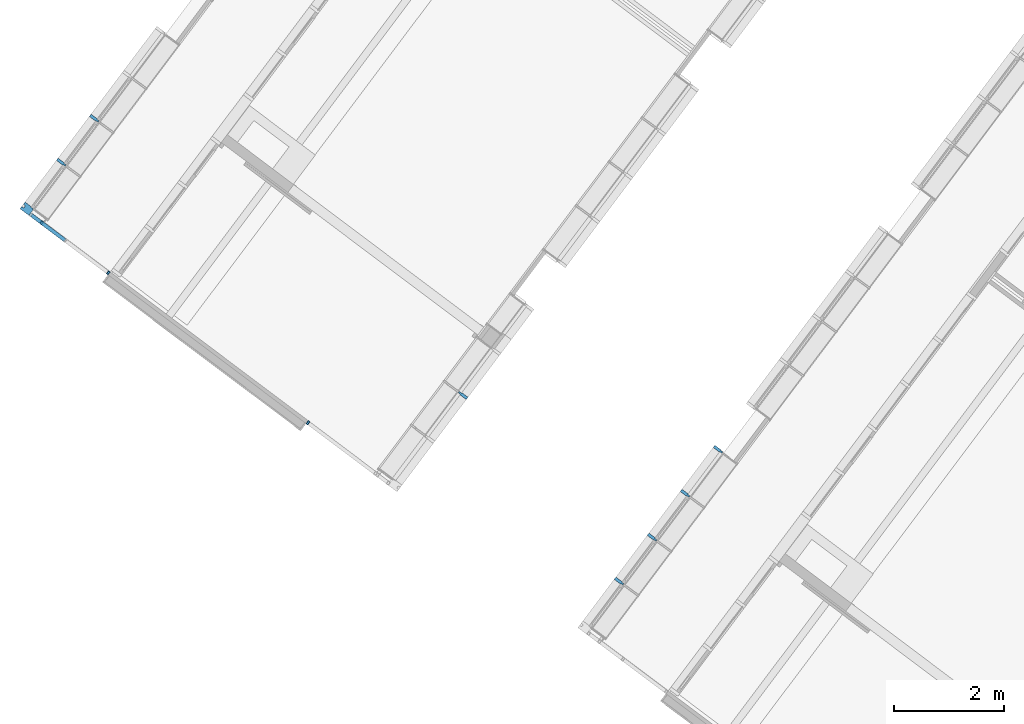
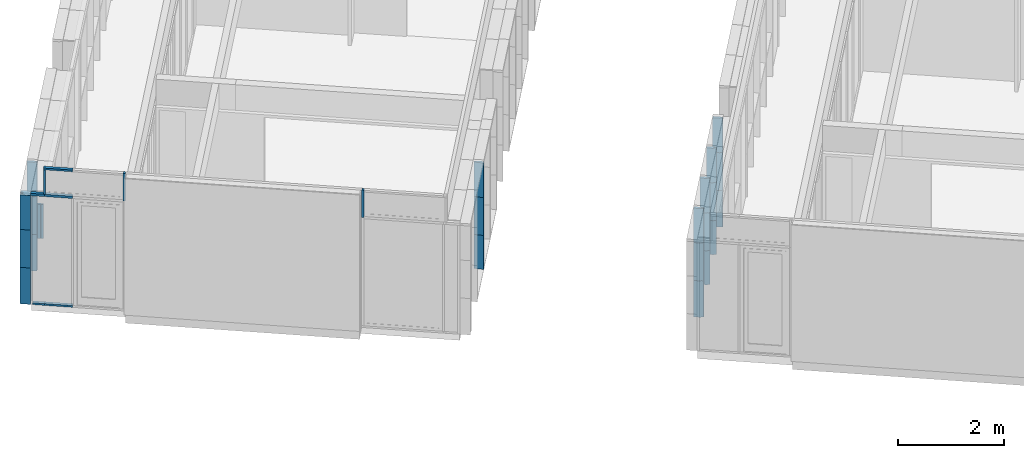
# One storey, part 92 of 243: 30 members, 5 elements without a shape of their own.
"""IFC2X3 building model written with IfcOpenShell, lengths in metres."""

from ifc_helpers import new_model, entity, si_unit, converted_unit, derived_unit, direction, frame, frame_2d, origin, origin_2d_with_axis, place, context, subcontext, project, spatial, polyline, rectangle, outline, extrude, source, transform, mapped, material, type_object, type_shapes, element, aggregate, save


model = new_model("IFC2X3")

# Units and contexts
model_context = context("Model", 3, precision=1e-05, world=origin(), true_north=direction((6.123031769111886e-17, 1.0)))
body_context = subcontext(model_context, "Body", "Model", "MODEL_VIEW")
ifc_project = project(units=[si_unit("LENGTHUNIT", "METRE"), si_unit("AREAUNIT", "SQUARE_METRE"), si_unit("VOLUMEUNIT", "CUBIC_METRE"), converted_unit("PLANEANGLEUNIT", "DEGREE", entity("IfcRatioMeasure", 0.017453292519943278), si_unit("PLANEANGLEUNIT", "RADIAN"), dimensions=[0, 0, 0, 0, 0, 0, 0]), si_unit("MASSUNIT", "GRAM", prefix="KILO"), derived_unit("MASSDENSITYUNIT", [(si_unit("MASSUNIT", "GRAM", prefix="KILO"), 1), (si_unit("LENGTHUNIT", "METRE"), -3)]), derived_unit("IONCONCENTRATIONUNIT", [(si_unit("MASSUNIT", "GRAM", prefix="KILO"), 1), (si_unit("LENGTHUNIT", "METRE"), -3)]), derived_unit("MOMENTOFINERTIAUNIT", [(si_unit("LENGTHUNIT", "METRE"), 4)]), si_unit("TIMEUNIT", "SECOND"), si_unit("FREQUENCYUNIT", "HERTZ"), si_unit("THERMODYNAMICTEMPERATUREUNIT", "DEGREE_CELSIUS"), derived_unit("THERMALTRANSMITTANCEUNIT", [(si_unit("MASSUNIT", "GRAM", prefix="KILO"), 1), (si_unit("THERMODYNAMICTEMPERATUREUNIT", "KELVIN"), -1), (si_unit("TIMEUNIT", "SECOND"), -3)]), derived_unit("THERMALCONDUCTANCEUNIT", [(si_unit("MASSUNIT", "GRAM", prefix="KILO"), 1), (si_unit("THERMODYNAMICTEMPERATUREUNIT", "KELVIN"), -1), (si_unit("TIMEUNIT", "SECOND"), -3), (si_unit("LENGTHUNIT", "METRE"), 1)]), derived_unit("VOLUMETRICFLOWRATEUNIT", [(si_unit("LENGTHUNIT", "METRE"), 3), (si_unit("TIMEUNIT", "SECOND"), -1)]), derived_unit("MASSFLOWRATEUNIT", [(si_unit("MASSUNIT", "GRAM", prefix="KILO"), 1), (si_unit("TIMEUNIT", "SECOND"), -1)]), derived_unit("ROTATIONALFREQUENCYUNIT", [(si_unit("TIMEUNIT", "SECOND"), -1)]), si_unit("ELECTRICCURRENTUNIT", "AMPERE"), si_unit("ELECTRICVOLTAGEUNIT", "VOLT"), si_unit("POWERUNIT", "WATT"), si_unit("FORCEUNIT", "NEWTON", prefix="KILO"), si_unit("ILLUMINANCEUNIT", "LUX"), si_unit("LUMINOUSFLUXUNIT", "LUMEN"), si_unit("LUMINOUSINTENSITYUNIT", "CANDELA"), derived_unit("USERDEFINED", [(si_unit("MASSUNIT", "GRAM", prefix="KILO"), -1), (si_unit("LENGTHUNIT", "METRE"), -2), (si_unit("TIMEUNIT", "SECOND"), 3), (si_unit("LUMINOUSFLUXUNIT", "LUMEN"), 1)]), derived_unit("USERDEFINED", [(si_unit("MASSUNIT", "GRAM", prefix="KILO"), 1), (si_unit("TIMEUNIT", "SECOND"), -3), (si_unit("LENGTHUNIT", "METRE"), 3), (si_unit("ELECTRICCURRENTUNIT", "AMPERE"), -2)]), derived_unit("SOUNDPOWERUNIT", [(si_unit("MASSUNIT", "GRAM", prefix="KILO"), 1), (si_unit("TIMEUNIT", "SECOND"), -3), (si_unit("LENGTHUNIT", "METRE"), 2)]), derived_unit("SOUNDPRESSUREUNIT", [(si_unit("MASSUNIT", "GRAM", prefix="KILO"), 1), (si_unit("LENGTHUNIT", "METRE"), -1), (si_unit("TIMEUNIT", "SECOND"), -2)]), derived_unit("LINEARVELOCITYUNIT", [(si_unit("LENGTHUNIT", "METRE"), 1), (si_unit("TIMEUNIT", "SECOND"), -1)]), si_unit("PRESSUREUNIT", "PASCAL"), derived_unit("USERDEFINED", [(si_unit("MASSUNIT", "GRAM", prefix="KILO"), 1), (si_unit("LENGTHUNIT", "METRE"), -2), (si_unit("TIMEUNIT", "SECOND"), -2)]), derived_unit("LINEARFORCEUNIT", [(si_unit("MASSUNIT", "GRAM", prefix="KILO"), 1), (si_unit("TIMEUNIT", "SECOND"), -2)]), derived_unit("PLANARFORCEUNIT", [(si_unit("MASSUNIT", "GRAM", prefix="KILO"), 1), (si_unit("LENGTHUNIT", "METRE"), -1), (si_unit("TIMEUNIT", "SECOND"), -2)]), derived_unit("SPECIFICHEATCAPACITYUNIT", [(si_unit("THERMODYNAMICTEMPERATUREUNIT", "KELVIN"), -1), (si_unit("LENGTHUNIT", "METRE"), 2), (si_unit("TIMEUNIT", "SECOND"), -2)]), derived_unit("HEATINGVALUEUNIT", [(si_unit("LENGTHUNIT", "METRE"), 2), (si_unit("TIMEUNIT", "SECOND"), -2)]), derived_unit("VAPORPERMEABILITYUNIT", [(si_unit("LENGTHUNIT", "METRE"), -1), (si_unit("TIMEUNIT", "SECOND"), 1)]), derived_unit("DYNAMICVISCOSITYUNIT", [(si_unit("MASSUNIT", "GRAM", prefix="KILO"), 1), (si_unit("TIMEUNIT", "SECOND"), -1), (si_unit("LENGTHUNIT", "METRE"), -1)]), derived_unit("THERMALEXPANSIONCOEFFICIENTUNIT", [(si_unit("THERMODYNAMICTEMPERATUREUNIT", "KELVIN"), -1)]), derived_unit("MODULUSOFELASTICITYUNIT", [(si_unit("MASSUNIT", "GRAM", prefix="KILO"), 1), (si_unit("LENGTHUNIT", "METRE"), -1), (si_unit("TIMEUNIT", "SECOND"), -2)]), derived_unit("ISOTHERMALMOISTURECAPACITYUNIT", [(si_unit("LENGTHUNIT", "METRE"), 3), (si_unit("MASSUNIT", "GRAM", prefix="KILO"), -1)]), derived_unit("MOISTUREDIFFUSIVITYUNIT", [(si_unit("TIMEUNIT", "SECOND"), -1), (si_unit("LENGTHUNIT", "METRE"), 2)])], contexts=[model_context])

# Site, building, storey
site_placement = place(None, frame((0.0, 0.0, 235.0), z_axis=(0.0, 0.0, 1.0), x_axis=(-0.7996477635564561, 0.6004693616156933, 0.0)))
site = spatial("IfcSite", under=ifc_project, at=site_placement, Name="Default", CompositionType="ELEMENT")
building_placement = place(site_placement, origin())
building = spatial("IfcBuilding", under=site, at=building_placement, CompositionType="ELEMENT")
storey_placement = place(building_placement, origin())
storey = spatial("IfcBuildingStorey", under=building, at=storey_placement, Name="P0- Escola", CompositionType="ELEMENT", Elevation=0.0)

# Curtain wall, members
curtain_wall_type_1 = type_object("IfcCurtainWallType", Name="Muro cortina:MC- EXT- MC2", PredefinedType="NOTDEFINED")
curtain_wall_1_placement = place(storey_placement, origin())
curtain_wall_1 = element("IfcCurtainWall", 1, at=curtain_wall_1_placement, inside=storey, type_object=curtain_wall_type_1, Name="Muro cortina:MC- EXT- MC2", ObjectType="Muro cortina:MC- EXT- MC2")
ifc_material = material(Name="_Alumini- T1- Perfil")
member_type_1 = type_object("IfcMemberType", Name="Montante rectangular:MC- Alu- 140x52,5 cm- Fa patis- Centre", PredefinedType="MULLION", material=ifc_material)
shared_shape_1 = source(origin(), body_context, "Body", "SweptSolid", [
    extrude(outline(polyline([(-0.11699999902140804, -0.026250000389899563), (0.021999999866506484, -0.026250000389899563), (0.021999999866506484, -0.01500000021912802), (0.07299999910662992, -0.01500000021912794), (0.07299999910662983, 0.015000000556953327), (0.022000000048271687, 0.015000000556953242), (0.022000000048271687, 0.026250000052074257), (-0.11699999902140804, 0.026250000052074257), (-0.11699999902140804, -0.026250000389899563)])), frame((0.0, 0.022999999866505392, -0.7850000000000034), z_axis=(0.0, 0.0, 1.0), x_axis=(0.0, -1.0, 0.0)), (0.0, 0.0, 1.0), 0.7850000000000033),
])
type_shapes(member_type_1, [shared_shape_1])
member_1_placement = place(curtain_wall_1_placement, frame((66.44514768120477, -22.4151917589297, 0.035000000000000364), z_axis=(0.0, 0.0, -1.0), x_axis=(0.0, -1.0, 0.0)))
member_1 = element("IfcMember", 2, at=member_1_placement, type_object=member_type_1, material=ifc_material, Name="Montante rectangular:MC- Alu- 140x52,5 cm- Fa patis- Centre", ObjectType="Montante rectangular:MC- Alu- 140x52,5 cm- Fa patis- Centre", context=body_context, shape_type="MappedRepresentation", body=[
    mapped(shared_shape_1, transform((0.0, 0.0, 0.0), scale=1.0)),
])
member_type_2 = type_object("IfcMemberType", Name="Montante rectangular:MC- Alu- 140x52,5 cm- Fa patis- Centre", PredefinedType="MULLION", material=ifc_material)
shared_shape_2 = source(origin(), body_context, "Body", "SweptSolid", [
    extrude(outline(polyline([(-0.11699999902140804, -0.026250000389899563), (0.021999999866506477, -0.026250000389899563), (0.021999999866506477, -0.01500000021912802), (0.07299999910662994, -0.01500000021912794), (0.07299999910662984, 0.015000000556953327), (0.02200000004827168, 0.015000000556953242), (0.02200000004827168, 0.026250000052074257), (-0.11699999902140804, 0.026250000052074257), (-0.11699999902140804, -0.026250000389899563)])), frame((0.0, 0.022999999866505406, -0.8750000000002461), z_axis=(0.0, 0.0, 1.0), x_axis=(0.0, -1.0, 0.0)), (0.0, 0.0, 1.0), 0.8750000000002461),
])
type_shapes(member_type_2, [shared_shape_2])
member_2_placement = place(curtain_wall_1_placement, frame((66.44514768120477, -22.4151917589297, 0.8200000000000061), z_axis=(0.0, 0.0, -1.0), x_axis=(0.0, -1.0, 0.0)))
member_2 = element("IfcMember", 3, at=member_2_placement, type_object=member_type_2, material=ifc_material, Name="Montante rectangular:MC- Alu- 140x52,5 cm- Fa patis- Centre", ObjectType="Montante rectangular:MC- Alu- 140x52,5 cm- Fa patis- Centre", context=body_context, shape_type="MappedRepresentation", body=[
    mapped(shared_shape_2, transform((0.0, 0.0, 0.0), scale=1.0)),
])
member_type_3 = type_object("IfcMemberType", Name="Montante rectangular:MC- Alu- 140x52,5 cm- Fa patis- Centre", PredefinedType="MULLION", material=ifc_material)
shared_shape_3 = source(origin(), body_context, "Body", "SweptSolid", [
    extrude(outline(polyline([(-0.11699999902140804, -0.026250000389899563), (0.021999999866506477, -0.026250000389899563), (0.021999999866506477, -0.01500000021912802), (0.07299999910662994, -0.01500000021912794), (0.07299999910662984, 0.015000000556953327), (0.02200000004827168, 0.015000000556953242), (0.02200000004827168, 0.026250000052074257), (-0.11699999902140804, 0.026250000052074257), (-0.11699999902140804, -0.026250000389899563)])), frame((0.0, 0.022999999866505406, -0.79749999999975), z_axis=(0.0, 0.0, 1.0), x_axis=(0.0, -1.0, 0.0)), (0.0, 0.0, 1.0), 0.79749999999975),
])
type_shapes(member_type_3, [shared_shape_3])
member_3_placement = place(curtain_wall_1_placement, frame((66.44514768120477, -22.4151917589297, 1.6950000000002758), z_axis=(0.0, 0.0, -1.0), x_axis=(0.0, -1.0, 0.0)))
member_3 = element("IfcMember", 4, at=member_3_placement, type_object=member_type_3, material=ifc_material, Name="Montante rectangular:MC- Alu- 140x52,5 cm- Fa patis- Centre", ObjectType="Montante rectangular:MC- Alu- 140x52,5 cm- Fa patis- Centre", context=body_context, shape_type="MappedRepresentation", body=[
    mapped(shared_shape_3, transform((0.0, 0.0, 0.0), scale=1.0)),
])
aggregate(curtain_wall_1, [member_1, member_2, member_3])

curtain_wall_type_2 = type_object("IfcCurtainWallType", Name="Muro cortina:MC- EXT- AL1- Fa porxo", PredefinedType="NOTDEFINED")
curtain_wall_2_placement = place(storey_placement, origin())
curtain_wall_2 = element("IfcCurtainWall", 5, at=curtain_wall_2_placement, inside=storey, type_object=curtain_wall_type_2, Name="Muro cortina:MC- EXT- AL1- Fa porxo", ObjectType="Muro cortina:MC- EXT- AL1- Fa porxo")
member_type_4 = type_object("IfcMemberType", Name="Montante rectangular:MC- Alu- 65x41 cm- Fa Porxo- Centre", PredefinedType="MULLION", material=ifc_material)
shared_shape_4 = source(origin(), body_context, "Body", "SweptSolid", [
    extrude(rectangle(XDim=0.06500000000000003, YDim=0.041000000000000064, at=frame_2d((3.469446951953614e-18, -5.204170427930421e-18), x_axis=(1.0, 0.0))), frame((-0.020499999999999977, -0.032499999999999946, -0.2256666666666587), z_axis=(0.0, 0.0, 1.0), x_axis=(0.0, -1.0, 0.0)), (0.0, 0.0, 1.0), 0.22566666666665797),
])
type_shapes(member_type_4, [shared_shape_4])
member_4_placement = place(curtain_wall_2_placement, frame((74.64414768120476, -20.28894175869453, -0.020000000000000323), z_axis=(1.0, 0.0, 0.0), x_axis=(0.0, 0.0, -1.0)))
member_4 = element("IfcMember", 6, at=member_4_placement, type_object=member_type_4, material=ifc_material, Name="Montante rectangular:MC- Alu- 65x41 cm- Fa Porxo- Centre", ObjectType="Montante rectangular:MC- Alu- 65x41 cm- Fa Porxo- Centre", context=body_context, shape_type="MappedRepresentation", body=[
    mapped(shared_shape_4, transform((0.0, 0.0, 0.0), scale=1.0)),
])
member_type_5 = type_object("IfcMemberType", Name="Montante rectangular:MC- Alu- 65x41 cm- Fa Porxo- Centre", PredefinedType="MULLION", material=ifc_material)
shared_shape_5 = source(origin(), body_context, "Body", "SweptSolid", [
    extrude(rectangle(XDim=0.06500000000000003, YDim=0.041000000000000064, at=frame_2d((0.0, -8.673617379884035e-18), x_axis=(1.0, 0.0))), frame((-0.020500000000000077, -0.032499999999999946, -0.6312500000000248), z_axis=(0.0, 0.0, 1.0), x_axis=(0.0, -1.0, 0.0)), (0.0, 0.0, 1.0), 0.6312500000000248),
])
type_shapes(member_type_5, [shared_shape_5])
member_5_placement = place(curtain_wall_2_placement, frame((72.88014768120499, -20.288941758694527, 2.51875), z_axis=(0.0, 0.0, -1.0), x_axis=(-1.0, 0.0, 0.0)))
member_5 = element("IfcMember", 7, at=member_5_placement, type_object=member_type_5, material=ifc_material, Name="Montante rectangular:MC- Alu- 65x41 cm- Fa Porxo- Centre", ObjectType="Montante rectangular:MC- Alu- 65x41 cm- Fa Porxo- Centre", context=body_context, shape_type="MappedRepresentation", body=[
    mapped(shared_shape_5, transform((0.0, 0.0, 0.0), scale=1.0)),
])
member_type_6 = type_object("IfcMemberType", Name="Montante rectangular:MC- Alu- 65x52,5 cm- Fa Porxo- Centre", PredefinedType="MULLION", material=ifc_material)
shared_shape_6 = source(origin(), body_context, "Body", "SweptSolid", [
    extrude(rectangle(XDim=0.06500000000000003, YDim=0.05300000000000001, at=frame_2d((3.469446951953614e-18, 3.469446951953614e-18), x_axis=(1.0, 0.0))), frame((0.0, -0.03249999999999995, -0.266666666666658), z_axis=(0.0, 0.0, 1.0), x_axis=(0.0, -1.0, 0.0)), (0.0, 0.0, 1.0), 0.266666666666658),
])
type_shapes(member_type_6, [shared_shape_6])
member_6_placement = place(curtain_wall_2_placement, frame((74.4184810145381, -20.28894175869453, 2.51875), z_axis=(-1.0, 0.0, 0.0), x_axis=(0.0, 0.0, 1.0)))
member_6 = element("IfcMember", 8, at=member_6_placement, type_object=member_type_6, material=ifc_material, Name="Montante rectangular:MC- Alu- 65x52,5 cm- Fa Porxo- Centre", ObjectType="Montante rectangular:MC- Alu- 65x52,5 cm- Fa Porxo- Centre", context=body_context, shape_type="MappedRepresentation", body=[
    mapped(shared_shape_6, transform((0.0, 0.0, 0.0), scale=1.0)),
])
member_type_7 = type_object("IfcMemberType", Name="Montante rectangular:MC- Alu- 65x41 cm- Fa Porxo- Centre", PredefinedType="MULLION", material=ifc_material)
shared_shape_7 = source(origin(), body_context, "Body", "SweptSolid", [
    extrude(rectangle(XDim=0.06500000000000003, YDim=0.041000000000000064, at=frame_2d((0.0, -8.673617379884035e-18), x_axis=(1.0, 0.0))), frame((-0.020500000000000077, -0.032499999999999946, -0.5538333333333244), z_axis=(0.0, 0.0, 1.0), x_axis=(0.0, -1.0, 0.0)), (0.0, 0.0, 1.0), 0.5538333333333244),
])
type_shapes(member_type_7, [shared_shape_7])
member_7_placement = place(curtain_wall_2_placement, frame((73.88514768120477, -20.28894175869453, 3.150000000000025), z_axis=(-1.0, 0.0, 0.0), x_axis=(0.0, 0.0, 1.0)))
member_7 = element("IfcMember", 9, at=member_7_placement, type_object=member_type_7, material=ifc_material, Name="Montante rectangular:MC- Alu- 65x41 cm- Fa Porxo- Centre", ObjectType="Montante rectangular:MC- Alu- 65x41 cm- Fa Porxo- Centre", context=body_context, shape_type="MappedRepresentation", body=[
    mapped(shared_shape_7, transform((0.0, 0.0, 0.0), scale=1.0)),
])
member_type_8 = type_object("IfcMemberType", Name="Montante rectangular:MC- Alu- 65x41 cm- Fa Porxo- Centre", PredefinedType="MULLION", material=ifc_material)
shared_shape_8 = source(origin(), body_context, "Body", "SweptSolid", [
    extrude(rectangle(XDim=0.06500000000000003, YDim=0.041000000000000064, at=frame_2d((3.469446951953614e-18, -5.204170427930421e-18), x_axis=(1.0, 0.0))), frame((-0.020499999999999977, -0.032499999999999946, -0.5333333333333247), z_axis=(0.0, 0.0, 1.0), x_axis=(0.0, -1.0, 0.0)), (0.0, 0.0, 1.0), 0.5333333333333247),
])
type_shapes(member_type_8, [shared_shape_8])
member_8_placement = place(curtain_wall_2_placement, frame((74.4184810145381, -20.28894175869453, -0.02000000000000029), z_axis=(1.0, 0.0, 0.0), x_axis=(0.0, 0.0, -1.0)))
member_8 = element("IfcMember", 10, at=member_8_placement, type_object=member_type_8, material=ifc_material, Name="Montante rectangular:MC- Alu- 65x41 cm- Fa Porxo- Centre", ObjectType="Montante rectangular:MC- Alu- 65x41 cm- Fa Porxo- Centre", context=body_context, shape_type="MappedRepresentation", body=[
    mapped(shared_shape_8, transform((0.0, 0.0, 0.0), scale=1.0)),
])
member_type_9 = type_object("IfcMemberType", Name="Montante rectangular:MC- Alu- 65x52,5 cm- Fa Porxo- Centre", PredefinedType="MULLION", material=ifc_material)
shared_shape_9 = source(origin(), body_context, "Body", "SweptSolid", [
    extrude(rectangle(XDim=0.06500000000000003, YDim=0.05300000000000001, at=frame_2d((3.469446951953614e-18, 3.469446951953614e-18), x_axis=(1.0, 0.0))), frame((0.0, -0.03249999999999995, -0.5333333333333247), z_axis=(0.0, 0.0, 1.0), x_axis=(0.0, -1.0, 0.0)), (0.0, 0.0, 1.0), 0.5333333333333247),
])
type_shapes(member_type_9, [shared_shape_9])
member_9_placement = place(curtain_wall_2_placement, frame((73.88514768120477, -20.28894175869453, 2.51875), z_axis=(-1.0, 0.0, 0.0), x_axis=(0.0, 0.0, 1.0)))
member_9 = element("IfcMember", 11, at=member_9_placement, type_object=member_type_9, material=ifc_material, Name="Montante rectangular:MC- Alu- 65x52,5 cm- Fa Porxo- Centre", ObjectType="Montante rectangular:MC- Alu- 65x52,5 cm- Fa Porxo- Centre", context=body_context, shape_type="MappedRepresentation", body=[
    mapped(shared_shape_9, transform((0.0, 0.0, 0.0), scale=1.0)),
])
member_type_10 = type_object("IfcMemberType", Name="Montante rectangular:MC- Alu- 65x41 cm- Fa Porxo- Centre", PredefinedType="MULLION", material=ifc_material)
shared_shape_10 = source(origin(), body_context, "Body", "SweptSolid", [
    extrude(rectangle(XDim=0.06500000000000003, YDim=0.04100000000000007, at=frame_2d((0.0, -8.673617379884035e-18), x_axis=(1.0, 0.0))), frame((0.0, -0.032499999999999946, -0.5637500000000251), z_axis=(0.0, 0.0, 1.0), x_axis=(0.0, -1.0, 0.0)), (0.0, 0.0, 1.0), 0.5637500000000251),
])
type_shapes(member_type_10, [shared_shape_10])
member_10_placement = place(curtain_wall_2_placement, frame((74.4184810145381, -20.28894175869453, 2.54525), z_axis=(0.0, 0.0, -1.0), x_axis=(-1.0, 0.0, 0.0)))
member_10 = element("IfcMember", 12, at=member_10_placement, type_object=member_type_10, material=ifc_material, Name="Montante rectangular:MC- Alu- 65x41 cm- Fa Porxo- Centre", ObjectType="Montante rectangular:MC- Alu- 65x41 cm- Fa Porxo- Centre", context=body_context, shape_type="MappedRepresentation", body=[
    mapped(shared_shape_10, transform((0.0, 0.0, 0.0), scale=1.0)),
])
aggregate(curtain_wall_2, [member_4, member_5, member_6, member_7, member_8, member_9, member_10])

# Curtain wall, member
curtain_wall_type_3 = type_object("IfcCurtainWallType", Name="Muro cortina:MC- EXT- MC5", PredefinedType="NOTDEFINED")
curtain_wall_3_placement = place(storey_placement, origin())
curtain_wall_3 = element("IfcCurtainWall", 13, at=curtain_wall_3_placement, inside=storey, type_object=curtain_wall_type_3, Name="Muro cortina:MC- EXT- MC5", ObjectType="Muro cortina:MC- EXT- MC5")
member_type_11 = type_object("IfcMemberType", Name="Montante rectangular:MC- Alu- 140x52,5 cm- Fa patis- Centre", PredefinedType="MULLION", material=ifc_material)
shared_shape_11 = source(origin(), body_context, "Body", "SweptSolid", [
    extrude(outline(polyline([(-0.021999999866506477, -0.026250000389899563), (0.11699999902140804, -0.026250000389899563), (0.11699999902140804, 0.026250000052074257), (-0.02200000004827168, 0.026250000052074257), (-0.02200000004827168, 0.015000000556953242), (-0.07299999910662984, 0.015000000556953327), (-0.07299999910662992, -0.01500000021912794), (-0.021999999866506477, -0.01500000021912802), (-0.021999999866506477, -0.026250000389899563)])), frame((0.0, -0.022999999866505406, -0.8400000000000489), z_axis=(0.0, 0.0, 1.0), x_axis=(0.0, -1.0, 0.0)), (0.0, 0.0, 1.0), 0.8400000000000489),
])
type_shapes(member_type_11, [shared_shape_11])
member_11_placement = place(curtain_wall_3_placement, frame((74.7451476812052, -21.41519175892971, -0.02), z_axis=(0.0, 0.0, -1.0), x_axis=(0.0, -1.0, 0.0)))
member_11 = element("IfcMember", 14, at=member_11_placement, type_object=member_type_11, material=ifc_material, Name="Montante rectangular:MC- Alu- 140x52,5 cm- Fa patis- Centre", ObjectType="Montante rectangular:MC- Alu- 140x52,5 cm- Fa patis- Centre", context=body_context, shape_type="MappedRepresentation", body=[
    mapped(shared_shape_11, transform((0.0, 0.0, 0.0), scale=1.0)),
])

# Curtain wall, members
curtain_wall_4_placement = place(storey_placement, origin())
curtain_wall_4 = element("IfcCurtainWall", 15, at=curtain_wall_4_placement, inside=storey, type_object=curtain_wall_type_3, Name="Muro cortina:MC- EXT- MC5", ObjectType="Muro cortina:MC- EXT- MC5")
member_12_placement = place(curtain_wall_4_placement, frame((62.045147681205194, -21.415191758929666, -0.02), z_axis=(0.0, 0.0, -1.0), x_axis=(0.0, -1.0, 0.0)))
member_12 = element("IfcMember", 16, at=member_12_placement, type_object=member_type_11, material=ifc_material, Name="Montante rectangular:MC- Alu- 140x52,5 cm- Fa patis- Centre", ObjectType="Montante rectangular:MC- Alu- 140x52,5 cm- Fa patis- Centre", context=body_context, shape_type="MappedRepresentation", body=[
    mapped(shared_shape_11, transform((0.0, 0.0, 0.0), scale=1.0)),
])
member_13_placement = place(curtain_wall_4_placement, frame((62.04514768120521, -24.41519175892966, -0.02), z_axis=(0.0, 0.0, -1.0), x_axis=(0.0, -1.0, 0.0)))
member_13 = element("IfcMember", 17, at=member_13_placement, type_object=member_type_11, material=ifc_material, Name="Montante rectangular:MC- Alu- 140x52,5 cm- Fa patis- Centre", ObjectType="Montante rectangular:MC- Alu- 140x52,5 cm- Fa patis- Centre", context=body_context, shape_type="MappedRepresentation", body=[
    mapped(shared_shape_11, transform((0.0, 0.0, 0.0), scale=1.0)),
])

# Member
member_type_12 = type_object("IfcMemberType", Name="Montante rectangular:MC- Alu- 140x52,5 cm- Fa patis- Centre", PredefinedType="MULLION", material=ifc_material)
shared_shape_12 = source(origin(), body_context, "Body", "SweptSolid", [
    extrude(outline(polyline([(-0.021999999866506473, -0.026250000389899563), (0.11699999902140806, -0.026250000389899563), (0.11699999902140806, 0.026250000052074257), (-0.022000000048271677, 0.026250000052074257), (-0.022000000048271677, 0.015000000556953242), (-0.07299999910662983, 0.015000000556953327), (-0.07299999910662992, -0.01500000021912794), (-0.021999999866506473, -0.01500000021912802), (-0.021999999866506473, -0.026250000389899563)])), frame((0.0, -0.022999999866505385, -0.7850000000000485), z_axis=(0.0, 0.0, 1.0), x_axis=(0.0, -1.0, 0.0)), (0.0, 0.0, 1.0), 0.7850000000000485),
])
type_shapes(member_type_12, [shared_shape_12])
member_14_placement = place(curtain_wall_3_placement, frame((74.7451476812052, -22.415191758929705, 0.035000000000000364), z_axis=(0.0, 0.0, -1.0), x_axis=(0.0, -1.0, 0.0)))
member_14 = element("IfcMember", 18, at=member_14_placement, type_object=member_type_12, material=ifc_material, Name="Montante rectangular:MC- Alu- 140x52,5 cm- Fa patis- Centre", ObjectType="Montante rectangular:MC- Alu- 140x52,5 cm- Fa patis- Centre", context=body_context, shape_type="MappedRepresentation", body=[
    mapped(shared_shape_12, transform((0.0, 0.0, 0.0), scale=1.0)),
])

member_15_placement = place(curtain_wall_4_placement, frame((62.045147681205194, -22.415191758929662, 0.035000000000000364), z_axis=(0.0, 0.0, -1.0), x_axis=(0.0, -1.0, 0.0)))
member_15 = element("IfcMember", 19, at=member_15_placement, type_object=member_type_12, material=ifc_material, Name="Montante rectangular:MC- Alu- 140x52,5 cm- Fa patis- Centre", ObjectType="Montante rectangular:MC- Alu- 140x52,5 cm- Fa patis- Centre", context=body_context, shape_type="MappedRepresentation", body=[
    mapped(shared_shape_12, transform((0.0, 0.0, 0.0), scale=1.0)),
])

member_16_placement = place(curtain_wall_4_placement, frame((62.04514768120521, -23.41519175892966, 0.035000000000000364), z_axis=(0.0, 0.0, -1.0), x_axis=(0.0, -1.0, 0.0)))
member_16 = element("IfcMember", 20, at=member_16_placement, type_object=member_type_12, material=ifc_material, Name="Montante rectangular:MC- Alu- 140x52,5 cm- Fa patis- Centre", ObjectType="Montante rectangular:MC- Alu- 140x52,5 cm- Fa patis- Centre", context=body_context, shape_type="MappedRepresentation", body=[
    mapped(shared_shape_12, transform((0.0, 0.0, 0.0), scale=1.0)),
])

member_type_13 = type_object("IfcMemberType", Name="Montante rectangular:MC- Alu- 140x52,5 cm- Fa patis- Centre", PredefinedType="MULLION", material=ifc_material)
shared_shape_13 = source(origin(), body_context, "Body", "SweptSolid", [
    extrude(outline(polyline([(-0.021999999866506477, -0.026250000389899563), (0.11699999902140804, -0.026250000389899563), (0.11699999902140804, 0.026250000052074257), (-0.02200000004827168, 0.026250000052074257), (-0.02200000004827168, 0.015000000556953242), (-0.07299999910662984, 0.015000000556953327), (-0.07299999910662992, -0.01500000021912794), (-0.021999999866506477, -0.01500000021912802), (-0.021999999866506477, -0.026250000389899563)])), frame((0.0, -0.022999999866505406, -0.8750000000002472), z_axis=(0.0, 0.0, 1.0), x_axis=(0.0, -1.0, 0.0)), (0.0, 0.0, 1.0), 0.8750000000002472),
])
type_shapes(member_type_13, [shared_shape_13])
member_17_placement = place(curtain_wall_3_placement, frame((74.7451476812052, -21.41519175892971, 0.8200000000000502), z_axis=(0.0, 0.0, -1.0), x_axis=(0.0, -1.0, 0.0)))
member_17 = element("IfcMember", 21, at=member_17_placement, type_object=member_type_13, material=ifc_material, Name="Montante rectangular:MC- Alu- 140x52,5 cm- Fa patis- Centre", ObjectType="Montante rectangular:MC- Alu- 140x52,5 cm- Fa patis- Centre", context=body_context, shape_type="MappedRepresentation", body=[
    mapped(shared_shape_13, transform((0.0, 0.0, 0.0), scale=1.0)),
])

member_18_placement = place(curtain_wall_4_placement, frame((62.045147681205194, -21.415191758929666, 0.8200000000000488), z_axis=(0.0, 0.0, -1.0), x_axis=(0.0, -1.0, 0.0)))
member_18 = element("IfcMember", 22, at=member_18_placement, type_object=member_type_13, material=ifc_material, Name="Montante rectangular:MC- Alu- 140x52,5 cm- Fa patis- Centre", ObjectType="Montante rectangular:MC- Alu- 140x52,5 cm- Fa patis- Centre", context=body_context, shape_type="MappedRepresentation", body=[
    mapped(shared_shape_13, transform((0.0, 0.0, 0.0), scale=1.0)),
])

member_19_placement = place(curtain_wall_4_placement, frame((62.045147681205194, -22.415191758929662, 0.8200000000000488), z_axis=(0.0, 0.0, -1.0), x_axis=(0.0, -1.0, 0.0)))
member_19 = element("IfcMember", 23, at=member_19_placement, type_object=member_type_13, material=ifc_material, Name="Montante rectangular:MC- Alu- 140x52,5 cm- Fa patis- Centre", ObjectType="Montante rectangular:MC- Alu- 140x52,5 cm- Fa patis- Centre", context=body_context, shape_type="MappedRepresentation", body=[
    mapped(shared_shape_13, transform((0.0, 0.0, 0.0), scale=1.0)),
])

member_20_placement = place(curtain_wall_4_placement, frame((62.04514768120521, -23.41519175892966, 0.8200000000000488), z_axis=(0.0, 0.0, -1.0), x_axis=(0.0, -1.0, 0.0)))
member_20 = element("IfcMember", 24, at=member_20_placement, type_object=member_type_13, material=ifc_material, Name="Montante rectangular:MC- Alu- 140x52,5 cm- Fa patis- Centre", ObjectType="Montante rectangular:MC- Alu- 140x52,5 cm- Fa patis- Centre", context=body_context, shape_type="MappedRepresentation", body=[
    mapped(shared_shape_13, transform((0.0, 0.0, 0.0), scale=1.0)),
])

member_21_placement = place(curtain_wall_4_placement, frame((62.04514768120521, -24.41519175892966, 0.8200000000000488), z_axis=(0.0, 0.0, -1.0), x_axis=(0.0, -1.0, 0.0)))
member_21 = element("IfcMember", 25, at=member_21_placement, type_object=member_type_13, material=ifc_material, Name="Montante rectangular:MC- Alu- 140x52,5 cm- Fa patis- Centre", ObjectType="Montante rectangular:MC- Alu- 140x52,5 cm- Fa patis- Centre", context=body_context, shape_type="MappedRepresentation", body=[
    mapped(shared_shape_13, transform((0.0, 0.0, 0.0), scale=1.0)),
])

member_type_14 = type_object("IfcMemberType", Name="Montante rectangular:MC- Alu- 140x52,5 cm- Fa patis- Cantonada", PredefinedType="MULLION", material=ifc_material)
shared_shape_14 = source(origin(), body_context, "Body", "SweptSolid", [
    extrude(outline(polyline([(-0.04333333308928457, -0.05708333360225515), (0.09566666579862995, -0.05708333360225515), (0.09566666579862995, -0.004583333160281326), (0.05066666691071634, -0.004583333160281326), (0.050666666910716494, 0.042916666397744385), (0.09566666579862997, 0.042916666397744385), (0.09566666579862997, 0.09541666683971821), (-0.1043333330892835, 0.09541666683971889), (-0.1043333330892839, -0.03083333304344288), (-0.09433333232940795, -0.030833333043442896), (-0.094333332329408, -0.04583333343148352), (-0.04333333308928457, -0.0458333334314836), (-0.04333333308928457, -0.05708333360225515)])), frame((-0.09541666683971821, -0.0443333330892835, -0.8400000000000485), z_axis=(0.0, 0.0, 1.0), x_axis=(0.0, -1.0, 0.0)), (0.0, 0.0, 1.0), 0.8400000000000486),
])
type_shapes(member_type_14, [shared_shape_14])
member_22_placement = place(curtain_wall_3_placement, frame((74.7451476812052, -20.288941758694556, 0.8200000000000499), z_axis=(0.0, 0.0, 1.0), x_axis=(0.0, 1.0, 0.0)))
member_22 = element("IfcMember", 26, at=member_22_placement, type_object=member_type_14, material=ifc_material, Name="Montante rectangular:MC- Alu- 140x52,5 cm- Fa patis- Cantonada", ObjectType="Montante rectangular:MC- Alu- 140x52,5 cm- Fa patis- Cantonada", context=body_context, shape_type="MappedRepresentation", body=[
    mapped(shared_shape_14, transform((0.0, 0.0, 0.0), scale=1.0)),
])

member_type_15 = type_object("IfcMemberType", Name="Montante rectangular:MC- Alu- 140x52,5 cm- Fa patis- Cantonada", PredefinedType="MULLION", material=ifc_material)
shared_shape_15 = source(origin(), body_context, "Body", "SweptSolid", [
    extrude(outline(polyline([(-0.04333333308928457, -0.05708333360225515), (0.09566666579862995, -0.05708333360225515), (0.09566666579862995, -0.004583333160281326), (0.05066666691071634, -0.004583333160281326), (0.050666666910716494, 0.042916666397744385), (0.09566666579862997, 0.042916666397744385), (0.09566666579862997, 0.09541666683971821), (-0.1043333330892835, 0.09541666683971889), (-0.1043333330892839, -0.03083333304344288), (-0.09433333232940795, -0.030833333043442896), (-0.094333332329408, -0.04583333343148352), (-0.04333333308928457, -0.0458333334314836), (-0.04333333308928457, -0.05708333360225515)])), frame((-0.09541666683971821, -0.0443333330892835, -0.7974999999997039), z_axis=(0.0, 0.0, 1.0), x_axis=(0.0, -1.0, 0.0)), (0.0, 0.0, 1.0), 0.7974999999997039),
])
type_shapes(member_type_15, [shared_shape_15])
member_23_placement = place(curtain_wall_3_placement, frame((74.7451476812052, -20.288941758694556, 2.4924999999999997), z_axis=(0.0, 0.0, 1.0), x_axis=(0.0, 1.0, 0.0)))
member_23 = element("IfcMember", 27, at=member_23_placement, type_object=member_type_15, material=ifc_material, Name="Montante rectangular:MC- Alu- 140x52,5 cm- Fa patis- Cantonada", ObjectType="Montante rectangular:MC- Alu- 140x52,5 cm- Fa patis- Cantonada", context=body_context, shape_type="MappedRepresentation", body=[
    mapped(shared_shape_15, transform((0.0, 0.0, 0.0), scale=1.0)),
])

member_type_16 = type_object("IfcMemberType", Name="Montante rectangular:MC- Alu- 140x52,5 cm- Fa patis- Centre", PredefinedType="MULLION", material=ifc_material)
shared_shape_16 = source(origin(), body_context, "Body", "SweptSolid", [
    extrude(outline(polyline([(-0.021999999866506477, -0.026250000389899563), (0.11699999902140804, -0.026250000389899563), (0.11699999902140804, 0.026250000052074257), (-0.02200000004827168, 0.026250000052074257), (-0.02200000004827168, 0.015000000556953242), (-0.07299999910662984, 0.015000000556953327), (-0.07299999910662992, -0.01500000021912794), (-0.021999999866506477, -0.01500000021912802), (-0.021999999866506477, -0.026250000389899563)])), frame((0.0, -0.022999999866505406, -0.7974999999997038), z_axis=(0.0, 0.0, 1.0), x_axis=(0.0, -1.0, 0.0)), (0.0, 0.0, 1.0), 0.7974999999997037),
])
type_shapes(member_type_16, [shared_shape_16])
member_24_placement = place(curtain_wall_3_placement, frame((74.7451476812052, -21.41519175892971, 1.6950000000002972), z_axis=(0.0, 0.0, -1.0), x_axis=(0.0, -1.0, 0.0)))
member_24 = element("IfcMember", 28, at=member_24_placement, type_object=member_type_16, material=ifc_material, Name="Montante rectangular:MC- Alu- 140x52,5 cm- Fa patis- Centre", ObjectType="Montante rectangular:MC- Alu- 140x52,5 cm- Fa patis- Centre", context=body_context, shape_type="MappedRepresentation", body=[
    mapped(shared_shape_16, transform((0.0, 0.0, 0.0), scale=1.0)),
])

member_25_placement = place(curtain_wall_4_placement, frame((62.045147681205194, -21.415191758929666, 1.695000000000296), z_axis=(0.0, 0.0, -1.0), x_axis=(0.0, -1.0, 0.0)))
member_25 = element("IfcMember", 29, at=member_25_placement, type_object=member_type_16, material=ifc_material, Name="Montante rectangular:MC- Alu- 140x52,5 cm- Fa patis- Centre", ObjectType="Montante rectangular:MC- Alu- 140x52,5 cm- Fa patis- Centre", context=body_context, shape_type="MappedRepresentation", body=[
    mapped(shared_shape_16, transform((0.0, 0.0, 0.0), scale=1.0)),
])

member_26_placement = place(curtain_wall_4_placement, frame((62.045147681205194, -22.415191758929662, 1.695000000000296), z_axis=(0.0, 0.0, -1.0), x_axis=(0.0, -1.0, 0.0)))
member_26 = element("IfcMember", 30, at=member_26_placement, type_object=member_type_16, material=ifc_material, Name="Montante rectangular:MC- Alu- 140x52,5 cm- Fa patis- Centre", ObjectType="Montante rectangular:MC- Alu- 140x52,5 cm- Fa patis- Centre", context=body_context, shape_type="MappedRepresentation", body=[
    mapped(shared_shape_16, transform((0.0, 0.0, 0.0), scale=1.0)),
])

member_27_placement = place(curtain_wall_4_placement, frame((62.04514768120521, -23.41519175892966, 1.695000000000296), z_axis=(0.0, 0.0, -1.0), x_axis=(0.0, -1.0, 0.0)))
member_27 = element("IfcMember", 31, at=member_27_placement, type_object=member_type_16, material=ifc_material, Name="Montante rectangular:MC- Alu- 140x52,5 cm- Fa patis- Centre", ObjectType="Montante rectangular:MC- Alu- 140x52,5 cm- Fa patis- Centre", context=body_context, shape_type="MappedRepresentation", body=[
    mapped(shared_shape_16, transform((0.0, 0.0, 0.0), scale=1.0)),
])

member_28_placement = place(curtain_wall_4_placement, frame((62.04514768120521, -24.41519175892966, 1.695000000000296), z_axis=(0.0, 0.0, -1.0), x_axis=(0.0, -1.0, 0.0)))
member_28 = element("IfcMember", 32, at=member_28_placement, type_object=member_type_16, material=ifc_material, Name="Montante rectangular:MC- Alu- 140x52,5 cm- Fa patis- Centre", ObjectType="Montante rectangular:MC- Alu- 140x52,5 cm- Fa patis- Centre", context=body_context, shape_type="MappedRepresentation", body=[
    mapped(shared_shape_16, transform((0.0, 0.0, 0.0), scale=1.0)),
])

aggregate(curtain_wall_4, [member_12, member_15, member_16, member_13, member_18, member_19, member_20, member_21, member_25, member_26, member_27, member_28])

member_type_17 = type_object("IfcMemberType", Name="Montante rectangular:MC- Alu- 140x52,5 cm- Fa patis- Cantonada", PredefinedType="MULLION", material=ifc_material)
shared_shape_17 = source(origin(), body_context, "Body", "SweptSolid", [
    extrude(outline(polyline([(-0.04333333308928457, -0.05708333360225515), (0.09566666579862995, -0.05708333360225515), (0.09566666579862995, -0.004583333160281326), (0.05066666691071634, -0.004583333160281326), (0.050666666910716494, 0.042916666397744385), (0.09566666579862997, 0.042916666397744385), (0.09566666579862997, 0.09541666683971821), (-0.1043333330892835, 0.09541666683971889), (-0.1043333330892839, -0.03083333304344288), (-0.09433333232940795, -0.030833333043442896), (-0.094333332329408, -0.04583333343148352), (-0.04333333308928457, -0.0458333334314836), (-0.04333333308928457, -0.05708333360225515)])), frame((-0.09541666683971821, -0.0443333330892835, -0.8750000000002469), z_axis=(0.0, 0.0, 1.0), x_axis=(0.0, -1.0, 0.0)), (0.0, 0.0, 1.0), 0.8750000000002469),
])
type_shapes(member_type_17, [shared_shape_17])
member_29_placement = place(curtain_wall_3_placement, frame((74.7451476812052, -20.288941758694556, 1.6950000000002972), z_axis=(0.0, 0.0, 1.0), x_axis=(0.0, 1.0, 0.0)))
member_29 = element("IfcMember", 33, at=member_29_placement, type_object=member_type_17, material=ifc_material, Name="Montante rectangular:MC- Alu- 140x52,5 cm- Fa patis- Cantonada", ObjectType="Montante rectangular:MC- Alu- 140x52,5 cm- Fa patis- Cantonada", context=body_context, shape_type="MappedRepresentation", body=[
    mapped(shared_shape_17, transform((0.0, 0.0, 0.0), scale=1.0)),
])

aggregate(curtain_wall_3, [member_11, member_14, member_17, member_22, member_23, member_24, member_29])

# Curtain wall, member
curtain_wall_5_placement = place(storey_placement, origin())
curtain_wall_5 = element("IfcCurtainWall", 34, at=curtain_wall_5_placement, inside=storey, type_object=curtain_wall_type_2, Name="Muro cortina:MC- EXT- AL1- Fa porxo", ObjectType="Muro cortina:MC- EXT- AL1- Fa porxo")
member_type_18 = type_object("IfcMemberType", Name="Montante rectangular:MC- Alu- 65x41 cm- Fa Porxo- Centre", PredefinedType="MULLION", material=ifc_material)
shared_shape_18 = source(origin(), body_context, "Body", "SweptSolid", [
    extrude(rectangle(XDim=0.06500000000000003, YDim=0.041000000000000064, at=origin_2d_with_axis()), frame((-0.02050000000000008, 0.032499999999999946, -0.6312500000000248), z_axis=(0.0, 0.0, 1.0), x_axis=(0.0, -1.0, 0.0)), (0.0, 0.0, 1.0), 0.6312500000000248),
])
type_shapes(member_type_18, [shared_shape_18])
member_30_placement = place(curtain_wall_5_placement, frame((68.3751436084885, -20.288941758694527, 2.51875), z_axis=(0.0, 0.0, -1.0), x_axis=(1.0, 0.0, 0.0)))
member_30 = element("IfcMember", 35, at=member_30_placement, type_object=member_type_18, material=ifc_material, Name="Montante rectangular:MC- Alu- 65x41 cm- Fa Porxo- Centre", ObjectType="Montante rectangular:MC- Alu- 65x41 cm- Fa Porxo- Centre", context=body_context, shape_type="MappedRepresentation", body=[
    mapped(shared_shape_18, transform((0.0, 0.0, 0.0), scale=1.0)),
])
aggregate(curtain_wall_5, [member_30])

save(model, "model.ifc")
